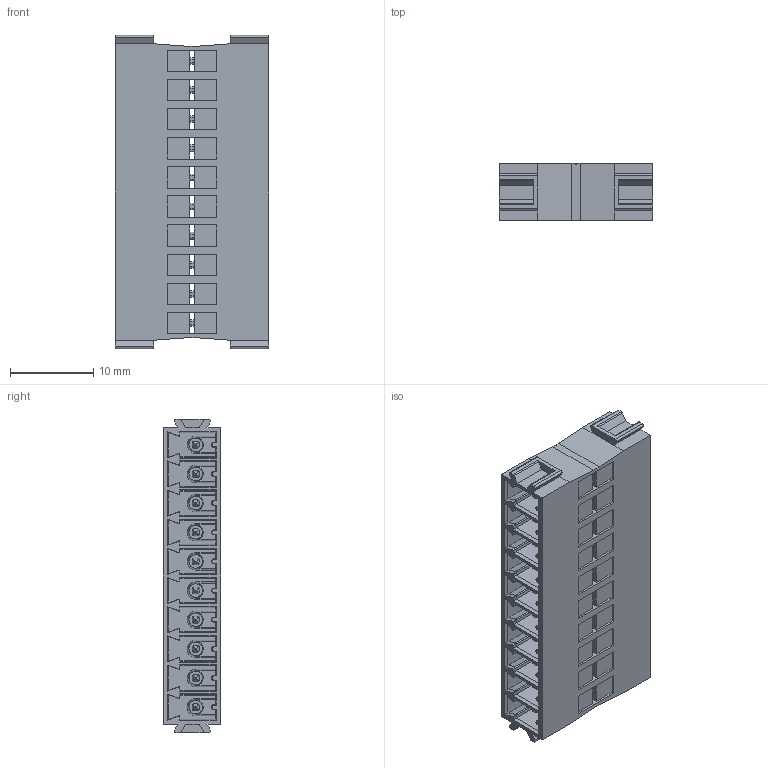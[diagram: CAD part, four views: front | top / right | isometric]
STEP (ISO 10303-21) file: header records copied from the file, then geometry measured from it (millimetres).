
FILE_DESCRIPTION (( 'STEP AP203' ), '1' );
FILE_NAME ('110-M-241-10.STEP', '2019-01-04T00:44:15', ( '' ), ( '' ), 'SwSTEP 2.0', 'SolidWorks 2016', '' );
FILE_SCHEMA (( 'CONFIG_CONTROL_DESIGN' ));
Length unit declared in the file: millimetre
Products named in the file (1): 110-M-241-10
Bounding box: 18.4 x 6.9 x 37.6 mm (x, y, z)
Volume: 1927 mm3; surface area: 6174.2 mm2
Topology: 1 solids, 1 shells, 1409 faces, 3927 edges, 2510 vertices
Faces by surface type: plane 971, cylinder 318, cone 120
Entity records: 46748 total; most frequent: CARTESIAN_POINT 11697, ORIENTED_EDGE 7854, DIRECTION 6391, EDGE_CURVE 3927, VECTOR 2859, LINE 2859, VERTEX_POINT 2510, AXIS2_PLACEMENT_3D 1766
